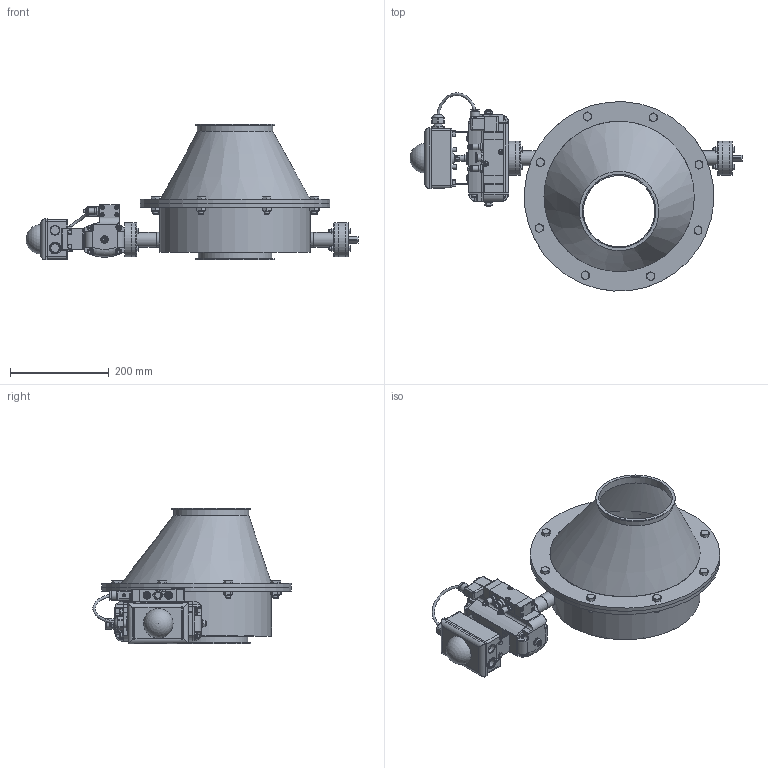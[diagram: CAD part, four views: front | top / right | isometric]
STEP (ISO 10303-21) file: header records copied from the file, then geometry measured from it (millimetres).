
FILE_DESCRIPTION((''),'2;1');
FILE_NAME('U:\Wolfgang\Marcel-3D\fertig\Kapitel 8\1521218.stp','2011-05-03T15:01:47',('TK1'),(''),'Autodesk Inventor 2010','Autodesk Inventor 2010','');
FILE_SCHEMA(('AUTOMOTIVE_DESIGN { 1 0 10303 214 1 1 1 1 }'));
Length unit declared in the file: millimetre
Products named in the file (48): 1521218; 1521218-1; 03081301; DIN EN ISO 4018 M10x30; DIN 555 - ersetzt durch DIN EN 24034 M10; wellenendeD15; Wellenende D15; Buchse D15 70-50; lagerdeckel D15; PendelkugellagerD15; DIN EN ISO 4018 M6x40; DIN 555 - ersetzt durch DIN EN 24034 M6; EndstückD15; WellenendeD15 mit Antrieb; DIN EN ISO 4018 M6x35; Pneumatischer SchwenkantriebS63D-2; Body; roter Verschluss; A1 Schwenkantrieb; Body S063D; End Cap L; End Cap R; DIN EN ISO 4762 M6 x 12; DIN EN ISO 4018 M5x10; DIN 916 M8  x  40; DIN 555 - ersetzt durch DIN EN 24034 M8; DIN 125-1 A A 8,4; DIN 125-1 A A 13; A1 Ventileinheit-2; Ventil1; Ventil1a; Ventil1b; Ventil1a_1; Ventil1b_1; ISO 7046-1 Z M4 x 25 - 4.8 - Z; Ventil1c; Ventil1d; ISO 7047 (H) M3x8 - 4.8 - H; DIN 7984 M6 x 40; DIN EN ISO 7042 M8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
Assembly tree (107 placements, depth 5):
  1521218
    1521218-1
    03081301  x2
    DIN EN ISO 4018 M10x30  x8
    DIN 555 - ersetzt durch DIN EN 24034 M10  x8
    wellenendeD15
      Wellenende D15
        Buchse D15 70-50
        lagerdeckel D15
        PendelkugellagerD15
      DIN EN ISO 4018 M6x40  x4
      DIN 555 - ersetzt durch DIN EN 24034 M6  x4
      EndstückD15
    WellenendeD15 mit Antrieb
      Buchse D15 70-50
      PendelkugellagerD15
      DIN EN ISO 4018 M6x35  x4
      Pneumatischer SchwenkantriebS63D-2
        Body
        roter Verschluss
        A1 Schwenkantrieb
          Body S063D
          End Cap L
          End Cap R
          DIN EN ISO 4762 M6 x 12  x8
          DIN EN ISO 4018 M5x10  x4
          DIN 916 M8  x  40  x2
          DIN 555 - ersetzt durch DIN EN 24034 M8  x2
          DIN 125-1 A A 8,4  x2
          DIN 125-1 A A 13  x2
        A1 Ventileinheit-2
          Ventil1
          Ventil1a
          Ventil1b
          Ventil1a_1
          Ventil1b_1
          ISO 7046-1 Z M4 x 25 - 4.8 - Z  x8
          Ventil1c
          Ventil1d
          ISO 7047 (H) M3x8 - 4.8 - H
          DIN 7984 M6 x 40  x2
          DIN EN ISO 7042 M8  x2
          DIN 125-1 A A 8,4  x2
          Ventil1e  x2
          Ventil1f  x2
          DIN EN 24766 M6 x 30  x2
          DIN 439-2 - ersetzt durch DIN EN 24035/28675 M6  x2
          entlüftung
        Halterung  x2
        DIN EN ISO 4018 M5x10  x4
        Deckel2
        Schlauch 1
Bounding box: 674 x 402.24 x 275.91 mm (x, y, z)
Volume: 3001575.4 mm3; surface area: 1179487.9 mm2
Topology: 104 solids, 105 shells, 2077 faces, 4827 edges, 3056 vertices
Faces by surface type: plane 1024, cone 426, cylinder 340, bspline 205, torus 74, sphere 8
Full cylindrical faces by diameter (mm): 2.5 x1, 3 x1, 3.242 x8, 3.571 x8, 4 x8, 4.917 x4, 5 x10, 5.5 x1, 6 x22, 6.647 x1, 8 x6, 8.4 x12, 10 x18, 11.63 x6, 11.9 x2, 12 x1, 12.5 x1, 13 x7, 14 x3, 15 x1, 15.5 x2, 15.918 x1, 16 x7, 16.918 x1, 17 x3, 17.3 x1, 17.79 x2, 18 x3, 19 x2, 21.3 x1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
Entity records: 37062 total; most frequent: CARTESIAN_POINT 12964, DIRECTION 4797, ORIENTED_EDGE 4192, EDGE_CURVE 2096, AXIS2_PLACEMENT_3D 1910, EDGE_LOOP 1508, VERTEX_POINT 1477, FACE_OUTER_BOUND 1041
